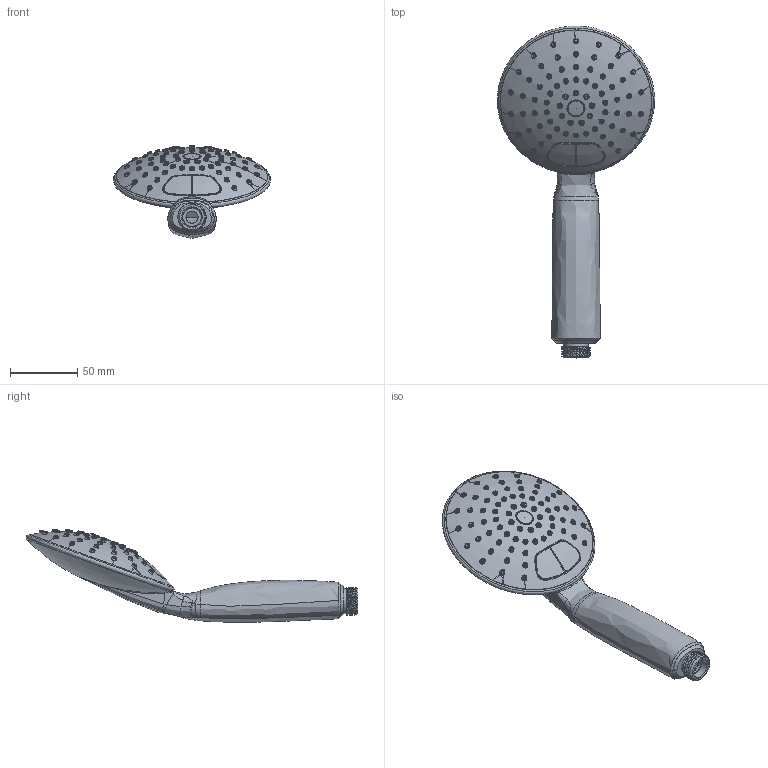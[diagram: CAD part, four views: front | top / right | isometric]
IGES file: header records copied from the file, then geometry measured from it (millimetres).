
Global section: file name: a3de4ccc-24a2-484c-b4d3-7eefaf1811d2; native system: unknown; preprocessor: unknown; author: unknown; organization: unknown; date: 20200702.070113; units: millimetre
Bounding box: 116.69 x 246.42 x 68.77 mm (x, y, z)
Volume: 138939.5 mm3; surface area: 126269.4 mm2
Topology: 10 solids, 15 shells, 1539 faces, 4472 edges, 2657 vertices
Faces by surface type: bspline 1539
